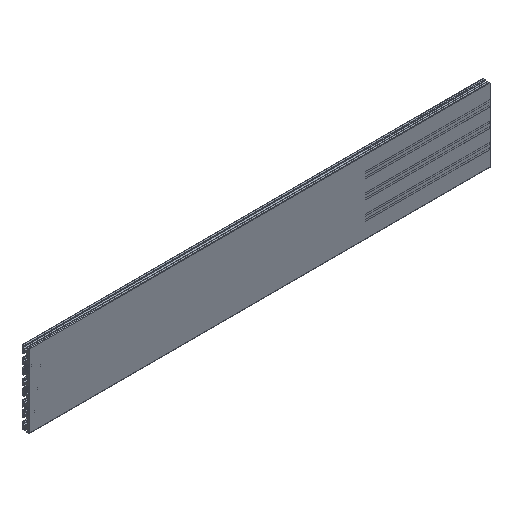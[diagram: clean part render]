
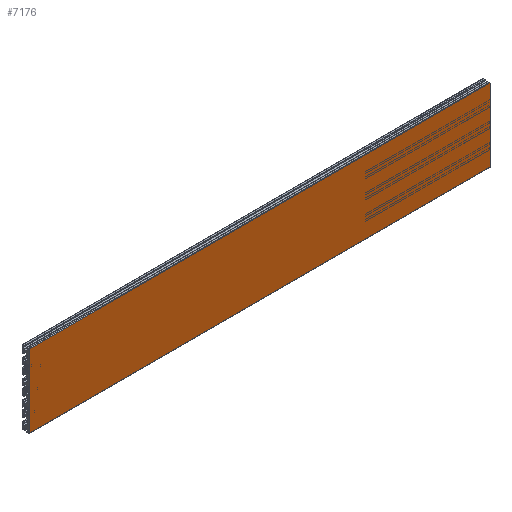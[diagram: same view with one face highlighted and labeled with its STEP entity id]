
A CAD part, isometric view. The second image highlights one B-rep face of the part: STEP entity #7176.
In plain terms, the highlighted planar face has unit normal (0, -1, 0).
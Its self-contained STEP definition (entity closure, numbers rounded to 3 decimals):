
#273 = CARTESIAN_POINT ( 'NONE',  ( 1000., -8., -79. ) ) ;
#604 = CARTESIAN_POINT ( 'NONE',  ( 0., -8., 79. ) ) ;
#1322 = ORIENTED_EDGE ( 'NONE', *, *, #1445, .T. ) ;
#1445 = EDGE_CURVE ( 'NONE', #9203, #9969, #9380, .T. ) ;
#1623 = EDGE_CURVE ( 'NONE', #9771, #9203, #9764, .T. ) ;
#1836 = VECTOR ( 'NONE', #9623, 1000. ) ;
#1870 = ORIENTED_EDGE ( 'NONE', *, *, #1623, .T. ) ;
#2532 = CARTESIAN_POINT ( 'NONE',  ( 1000., -8., 79. ) ) ;
#3685 = CARTESIAN_POINT ( 'NONE',  ( 1000., -8., 79. ) ) ;
#4026 = VERTEX_POINT ( 'NONE', #273 ) ;
#4063 = DIRECTION ( 'NONE',  ( -1., 0., 0. ) ) ;
#4210 = DIRECTION ( 'NONE',  ( 0., 0., 1. ) ) ;
#4854 = AXIS2_PLACEMENT_3D ( 'NONE', #2532, #9013, #4210 ) ;
#5571 = EDGE_LOOP ( 'NONE', ( #1322, #8706, #7840, #1870 ) ) ;
#5633 = DIRECTION ( 'NONE',  ( -1., 0., 0. ) ) ;
#5726 = FACE_OUTER_BOUND ( 'NONE', #5571, .T. ) ;
#5880 = VECTOR ( 'NONE', #9971, 1000. ) ;
#5940 = EDGE_CURVE ( 'NONE', #9771, #4026, #7984, .T. ) ;
#6449 = LINE ( 'NONE', #8869, #8572 ) ;
#7176 = ADVANCED_FACE ( 'NONE', ( #5726 ), #7403, .F. ) ;
#7403 = PLANE ( 'NONE',  #4854 ) ;
#7550 = CARTESIAN_POINT ( 'NONE',  ( 1000., -8., 79. ) ) ;
#7620 = VECTOR ( 'NONE', #5633, 1000. ) ;
#7789 = CARTESIAN_POINT ( 'NONE',  ( 1000., -8., 79. ) ) ;
#7840 = ORIENTED_EDGE ( 'NONE', *, *, #5940, .F. ) ;
#7984 = LINE ( 'NONE', #7550, #5880 ) ;
#7986 = EDGE_CURVE ( 'NONE', #4026, #9969, #6449, .T. ) ;
#8572 = VECTOR ( 'NONE', #4063, 1000. ) ;
#8706 = ORIENTED_EDGE ( 'NONE', *, *, #7986, .F. ) ;
#8869 = CARTESIAN_POINT ( 'NONE',  ( 1000., -8., -79. ) ) ;
#9013 = DIRECTION ( 'NONE',  ( 0., 1., 0. ) ) ;
#9203 = VERTEX_POINT ( 'NONE', #10128 ) ;
#9380 = LINE ( 'NONE', #604, #1836 ) ;
#9623 = DIRECTION ( 'NONE',  ( 0., 0., -1. ) ) ;
#9764 = LINE ( 'NONE', #7789, #7620 ) ;
#9771 = VERTEX_POINT ( 'NONE', #3685 ) ;
#9969 = VERTEX_POINT ( 'NONE', #10404 ) ;
#9971 = DIRECTION ( 'NONE',  ( 0., 0., -1. ) ) ;
#10128 = CARTESIAN_POINT ( 'NONE',  ( 0., -8., 79. ) ) ;
#10404 = CARTESIAN_POINT ( 'NONE',  ( 0., -8., -79. ) ) ;
